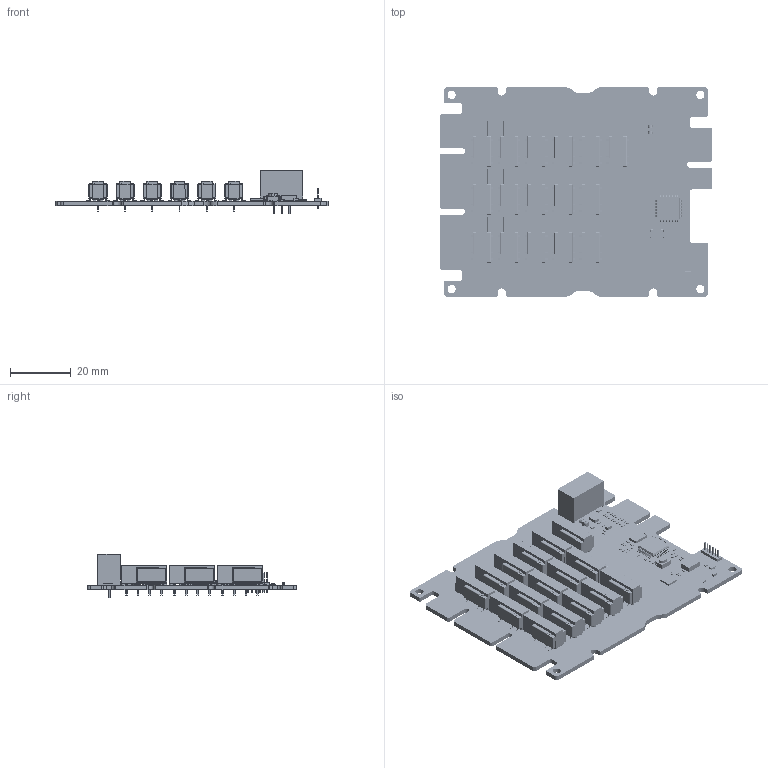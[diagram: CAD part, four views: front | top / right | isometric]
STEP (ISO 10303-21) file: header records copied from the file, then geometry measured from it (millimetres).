
FILE_DESCRIPTION(('Open CASCADE Model'),'2;1');
FILE_NAME('Open CASCADE Shape Model','2026-08-19T13:11:56',('Author'),( 'Open CASCADE'),'Open CASCADE STEP processor 7.5','Open CASCADE 7.5' ,'Unknown');
FILE_SCHEMA(('AUTOMOTIVE_DESIGN { 1 0 10303 214 1 1 1 1 }'));
Length unit declared in the file: millimetre
Products named in the file (229): Open CASCADE STEP translator 7.5 1; Open CASCADE STEP translator 7.5 2; Open CASCADE STEP translator 7.5 3; Open CASCADE STEP translator 7.5 4; Open CASCADE STEP translator 7.5 5; Open CASCADE STEP translator 7.5 6; Open CASCADE STEP translator 7.5 7; Open CASCADE STEP translator 7.5 8; Open CASCADE STEP translator 7.5 9; Open CASCADE STEP translator 7.5 10; Open CASCADE STEP translator 7.5 11; Open CASCADE STEP translator 7.5 12; Open CASCADE STEP translator 7.5 13; Open CASCADE STEP translator 7.5 14; Open CASCADE STEP translator 7.5 15; Open CASCADE STEP translator 7.5 16; Open CASCADE STEP translator 7.5 17; Open CASCADE STEP translator 7.5 18; Open CASCADE STEP translator 7.5 19; Open CASCADE STEP translator 7.5 20; Open CASCADE STEP translator 7.5 21; Open CASCADE STEP translator 7.5 22; Open CASCADE STEP translator 7.5 23; Open CASCADE STEP translator 7.5 24; Open CASCADE STEP translator 7.5 25; Open CASCADE STEP translator 7.5 26; Open CASCADE STEP translator 7.5 27; Open CASCADE STEP translator 7.5 28; Open CASCADE STEP translator 7.5 29; Open CASCADE STEP translator 7.5 30; Open CASCADE STEP translator 7.5 31; Open CASCADE STEP translator 7.5 32; Open CASCADE STEP translator 7.5 33; Open CASCADE STEP translator 7.5 34; Open CASCADE STEP translator 7.5 35; Open CASCADE STEP translator 7.5 36; Open CASCADE STEP translator 7.5 37; Open CASCADE STEP translator 7.5 38; Open CASCADE STEP translator 7.5 39; Open CASCADE STEP translator 7.5 40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
Bounding box: 90 x 69 x 14.2 mm (x, y, z)
Volume: 20351.3 mm3; surface area: 24719.2 mm2
Topology: 296 solids, 296 shells, 10018 faces, 25223 edges, 16722 vertices
Faces by surface type: plane 7252, extrusion 2000, cylinder 678, sphere 72, torus 8, bspline 4, cone 4
Full cylindrical faces by diameter (mm): 0.08 x1, 0.15 x16, 0.289 x1, 0.3 x6, 0.5 x3, 0.6 x6, 0.9 x64, 0.94 x3, 1 x16, 1.1 x64, 1.4 x1, 1.6 x2, 2.7 x4
Entity records: 420405 total; most frequent: CARTESIAN_POINT 136047, ORIENTED_EDGE 50446, DIRECTION 40538, EDGE_CURVE 25223, VECTOR 21716, LINE 19716, VERTEX_POINT 16722, FACE_BOUND 11097
